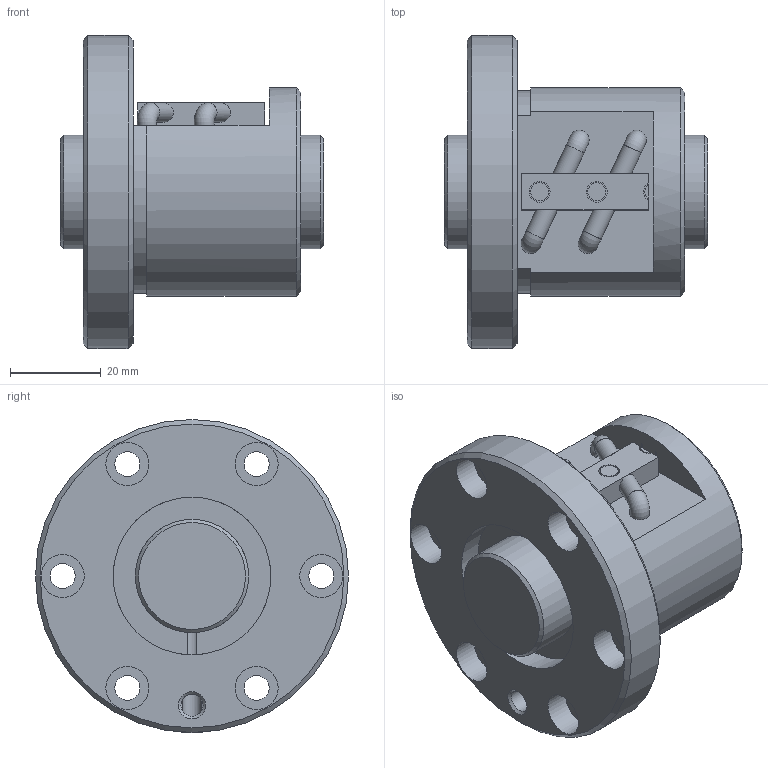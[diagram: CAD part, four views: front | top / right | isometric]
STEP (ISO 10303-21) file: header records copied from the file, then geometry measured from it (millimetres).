
FILE_DESCRIPTION(/* description */ ('STEP AP203'),/* implementation_level */ '2;1');
FILE_NAME(/* name */ 'BIF2504V-5RRG0+58LC0_000',/* time_stamp */ '2024-07-15T08:17:17+02:00',/* author */ ('License CC BY-ND 4.0'),/* organization */ ('CADENAS'),/* preprocessor_version */ 'ST-DEVELOPER v19.3',/* originating_system */ 'PARTsolutions',/* authorisation */ ' ');
FILE_SCHEMA (('CONFIG_CONTROL_DESIGN'));
Length unit declared in the file: millimetre
Products named in the file (3): BIF2504V-5RRG0+58LC0_000; BIF2504V-5RR000 Shaft; BIF2504V-5RR Nut
Assembly tree (2 placements, depth 2):
  BIF2504V-5RRG0+58LC0_000
    BIF2504V-5RR000 Shaft
    BIF2504V-5RR Nut
Bounding box: 58 x 69 x 69 mm (x, y, z)
Volume: 94347.2 mm3; surface area: 26361.4 mm2
Topology: 2 solids, 2 shells, 95 faces, 230 edges, 147 vertices
Faces by surface type: plane 44, cylinder 39, cone 8, torus 4
Full cylindrical faces by diameter (mm): 4 x2, 4.25 x2, 4.3 x4, 4.6 x2, 4.917 x1, 5.5 x6, 9.5 x6, 25 x2, 34.8 x2, 46 x1, 69 x1
Entity records: 2702 total; most frequent: CARTESIAN_POINT 510, DIRECTION 472, ORIENTED_EDGE 360, AXIS2_PLACEMENT_3D 207, EDGE_CURVE 180, EDGE_LOOP 168, FACE_BOUND 168, VERTEX_POINT 134
